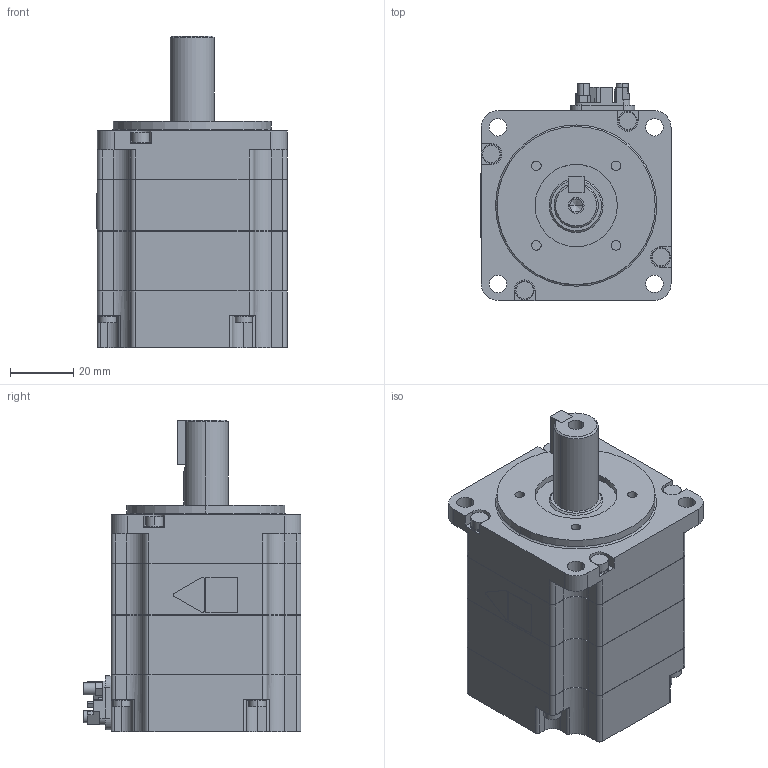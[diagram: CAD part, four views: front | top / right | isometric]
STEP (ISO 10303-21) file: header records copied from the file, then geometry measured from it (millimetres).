
FILE_DESCRIPTION( (''), '2;1');
FILE_NAME ('sgmxa_02aua61a_.stp','2023-08-25T11:58:32',(''),(''),'spGate 15.6.6','','');
FILE_SCHEMA (('AUTOMOTIVE_DESIGN'));
Length unit declared in the file: millimetre
Products named in the file (3): Assembly; sgmxa_02aua61a_-prt0; sgmxa_02aua61a_-prt1
Assembly tree (2 placements, depth 2):
  Assembly
    sgmxa_02aua61a_-prt0
    sgmxa_02aua61a_-prt1
Bounding box: 60.1 x 68.8 x 98.6 mm (x, y, z)
Volume: 227611.4 mm3; surface area: 28339.4 mm2
Topology: 2 solids, 2 shells, 446 faces, 1194 edges, 799 vertices
Faces by surface type: plane 257, cylinder 182, bspline 7
Entity records: 23576 total; most frequent: CARTESIAN_POINT 2657, DIRECTION 2392, ORIENTED_EDGE 2384, COLOUR_RGB 1640, PRESENTATION_STYLE_ASSIGNMENT 1640, STYLED_ITEM 1640, EDGE_CURVE 1192, DRAUGHTING_PRE_DEFINED_CURVE_FONT 1192
